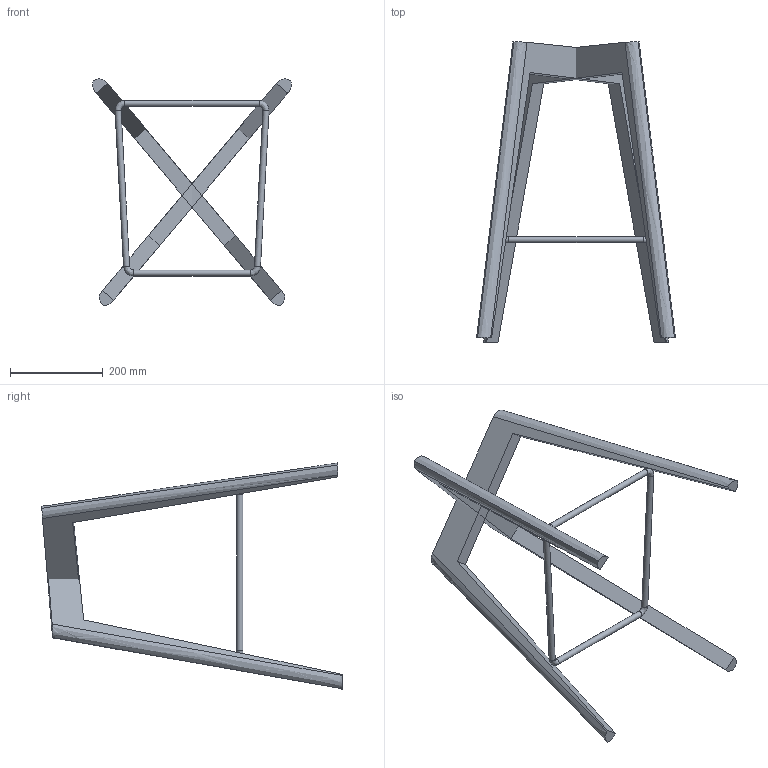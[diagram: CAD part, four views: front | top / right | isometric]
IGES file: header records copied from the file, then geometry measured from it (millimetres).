
Global section: file name: VincentSheppard_LilyCounter; native system: unknown; preprocessor: unknown; author: ict@vincentsheppard.com; organization: unknown; date: 20180522.160335; units: millimetre
Bounding box: 427.63 x 645.83 x 486.77 mm (x, y, z)
Volume: 3886039.6 mm3; surface area: 469348.3 mm2
Topology: 3 solids, 3 shells, 32 faces, 84 edges, 56 vertices
Faces by surface type: bspline 32
